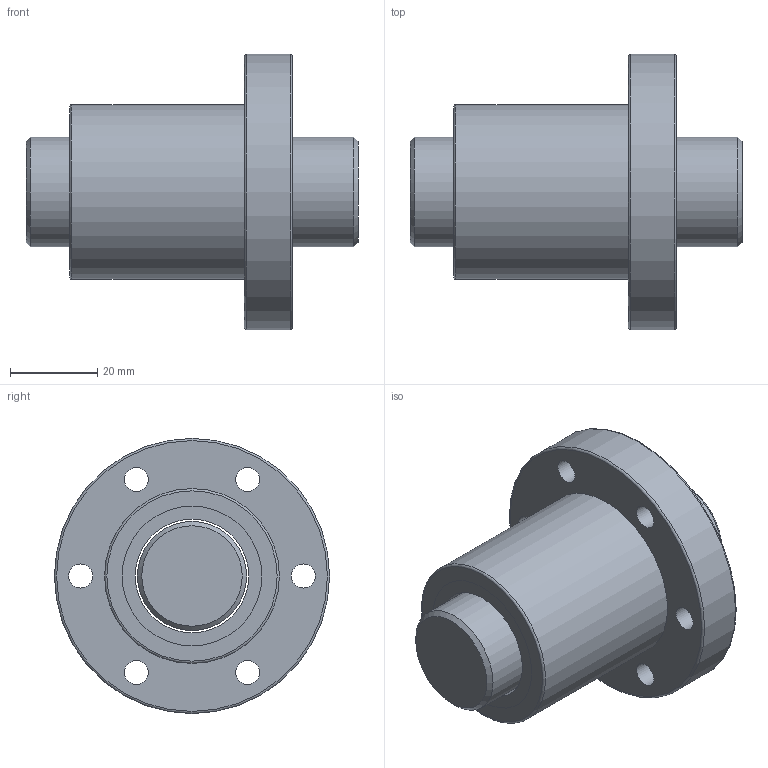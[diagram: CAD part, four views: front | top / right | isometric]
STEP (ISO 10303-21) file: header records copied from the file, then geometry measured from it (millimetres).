
FILE_DESCRIPTION(/* description */ (''),/* implementation_level */ '2;1');
FILE_NAME(/* name */ 'SFI2505',/* time_stamp */ '2007-10-26T11:42:50+08:00',/* author */ (''),/* organization */ (''),/* preprocessor_version */ 'ST-DEVELOPER v9',/* originating_system */ 'EDS PLM SOLUTIONS - UNIGRAPHICS NX 1.0',/* authorisation */ '');
FILE_SCHEMA (('CONFIG_CONTROL_DESIGN'));
Length unit declared in the file: millimetre
Products named in the file (1): FANNDA0400f6
Bounding box: 76 x 63 x 63 mm (x, y, z)
Volume: 91556.8 mm3; surface area: 27659.8 mm2
Topology: 4 solids, 4 shells, 44 faces, 76 edges, 49 vertices
Faces by surface type: cylinder 22, plane 17, torus 3, cone 2
Full cylindrical faces by diameter (mm): 5.5 x6, 9.5 x6, 25 x1, 26 x3, 32 x4, 40 x1, 63 x1
Entity records: 1050 total; most frequent: DIRECTION 188, CARTESIAN_POINT 143, EDGE_LOOP 98, ORIENTED_EDGE 98, AXIS2_PLACEMENT_3D 94, FACE_BOUND 79, VERTEX_POINT 49, EDGE_CURVE 49
